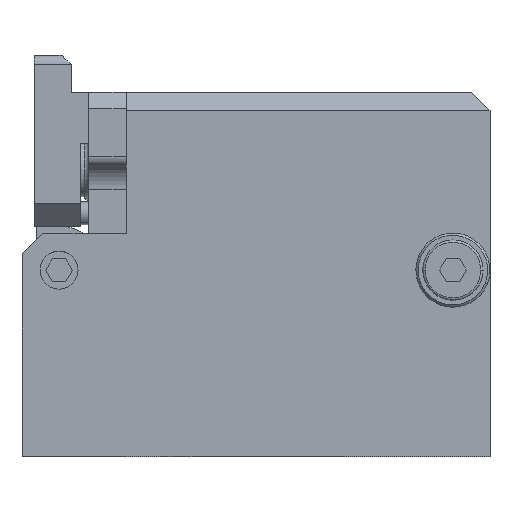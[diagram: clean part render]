
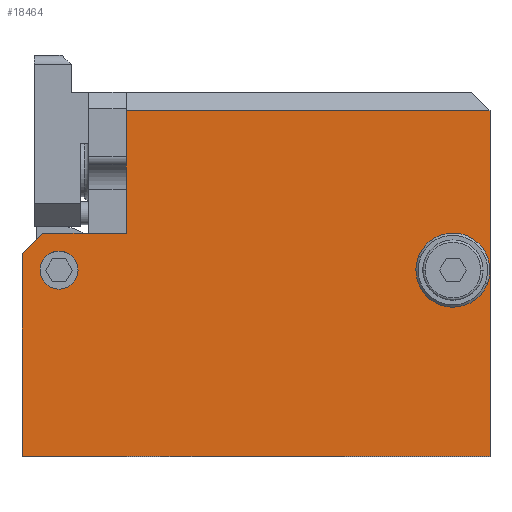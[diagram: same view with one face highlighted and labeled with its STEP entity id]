
A CAD part, top view. The second image highlights one B-rep face of the part: STEP entity #18464.
In plain terms, the highlighted planar face has unit normal (0, 0, 1).
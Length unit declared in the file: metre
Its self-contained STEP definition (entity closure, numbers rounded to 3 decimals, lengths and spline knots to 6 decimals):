
#98 = CIRCLE ( 'NONE', #13836, 0.0041 ) ;
#181 = VERTEX_POINT ( 'NONE', #21082 ) ;
#201 = ORIENTED_EDGE ( 'NONE', *, *, #5767, .T. ) ;
#472 = ORIENTED_EDGE ( 'NONE', *, *, #7378, .T. ) ;
#540 = EDGE_CURVE ( 'NONE', #4227, #5841, #15624, .T. ) ;
#588 = CIRCLE ( 'NONE', #14159, 0.0041 ) ;
#2124 = EDGE_LOOP ( 'NONE', ( #17940, #4405 ) ) ;
#2177 = CARTESIAN_POINT ( 'NONE',  ( -0.0026, -0.04015, 0.022 ) ) ;
#2906 = CARTESIAN_POINT ( 'NONE',  ( -0.0026, 0.0035, 0.022 ) ) ;
#3032 = VERTEX_POINT ( 'NONE', #6979 ) ;
#3379 = CARTESIAN_POINT ( 'NONE',  ( 0.0904, 0., 0.022 ) ) ;
#3390 = CARTESIAN_POINT ( 'NONE',  ( 0.0984, 0.03435, 0.022 ) ) ;
#3585 = LINE ( 'NONE', #20183, #21562 ) ;
#3662 = ORIENTED_EDGE ( 'NONE', *, *, #12776, .F. ) ;
#4227 = VERTEX_POINT ( 'NONE', #14653 ) ;
#4405 = ORIENTED_EDGE ( 'NONE', *, *, #5900, .F. ) ;
#4748 = FACE_BOUND ( 'NONE', #6740, .T. ) ;
#4845 = EDGE_CURVE ( 'NONE', #19908, #5401, #16482, .T. ) ;
#4880 = CARTESIAN_POINT ( 'NONE',  ( -0.0026, -0.04015, 0.022 ) ) ;
#5157 = EDGE_CURVE ( 'NONE', #22160, #181, #20256, .T. ) ;
#5309 = EDGE_LOOP ( 'NONE', ( #16817, #6311, #11939, #472, #13654, #201, #22427 ) ) ;
#5401 = VERTEX_POINT ( 'NONE', #18013 ) ;
#5575 = CARTESIAN_POINT ( 'NONE',  ( -0.0026, -0.04015, 0.022 ) ) ;
#5767 = EDGE_CURVE ( 'NONE', #3032, #22160, #20238, .T. ) ;
#5841 = VERTEX_POINT ( 'NONE', #12732 ) ;
#5900 = EDGE_CURVE ( 'NONE', #8719, #21366, #98, .T. ) ;
#6311 = ORIENTED_EDGE ( 'NONE', *, *, #4845, .T. ) ;
#6546 = PLANE ( 'NONE',  #14503 ) ;
#6621 = DIRECTION ( 'NONE',  ( 0., 0., -1. ) ) ;
#6705 = DIRECTION ( 'NONE',  ( -1., 0., 0. ) ) ;
#6740 = EDGE_LOOP ( 'NONE', ( #3662, #19798 ) ) ;
#6979 = CARTESIAN_POINT ( 'NONE',  ( -0.0026, 0.0035, 0.022 ) ) ;
#7244 = VERTEX_POINT ( 'NONE', #10456 ) ;
#7349 = AXIS2_PLACEMENT_3D ( 'NONE', #3379, #10204, #17149 ) ;
#7359 = CARTESIAN_POINT ( 'NONE',  ( 0.0904, 0., 0.022 ) ) ;
#7378 = EDGE_CURVE ( 'NONE', #7244, #14398, #14497, .T. ) ;
#7382 = DIRECTION ( 'NONE',  ( 0., -1., 0. ) ) ;
#7597 = AXIS2_PLACEMENT_3D ( 'NONE', #7359, #19566, #9115 ) ;
#7621 = CARTESIAN_POINT ( 'NONE',  ( 0.0054, 0., 0.022 ) ) ;
#7726 = CARTESIAN_POINT ( 'NONE',  ( 0.0054, 0., 0.022 ) ) ;
#7746 = LINE ( 'NONE', #9932, #21674 ) ;
#7950 = CARTESIAN_POINT ( 'NONE',  ( 0.0019, 0.008, 0.022 ) ) ;
#8719 = VERTEX_POINT ( 'NONE', #22363 ) ;
#9115 = DIRECTION ( 'NONE',  ( 1., 0., 0. ) ) ;
#9352 = FACE_OUTER_BOUND ( 'NONE', #5309, .T. ) ;
#9386 = CARTESIAN_POINT ( 'NONE',  ( 0.0019, 0.008, 0.022 ) ) ;
#9391 = DIRECTION ( 'NONE',  ( 1., 0., 0. ) ) ;
#9490 = DIRECTION ( 'NONE',  ( 1., 0., 0. ) ) ;
#9932 = CARTESIAN_POINT ( 'NONE',  ( 0.0199, 0.008, 0.022 ) ) ;
#10204 = DIRECTION ( 'NONE',  ( 0., 0., 1. ) ) ;
#10456 = CARTESIAN_POINT ( 'NONE',  ( 0.0199, 0.008, 0.022 ) ) ;
#10971 = VECTOR ( 'NONE', #17813, 1. ) ;
#11544 = DIRECTION ( 'NONE',  ( 0., 1., 0. ) ) ;
#11939 = ORIENTED_EDGE ( 'NONE', *, *, #17554, .T. ) ;
#12357 = VECTOR ( 'NONE', #13301, 1. ) ;
#12732 = CARTESIAN_POINT ( 'NONE',  ( 0.0863, 0., 0.022 ) ) ;
#12776 = EDGE_CURVE ( 'NONE', #5841, #4227, #17797, .T. ) ;
#13301 = DIRECTION ( 'NONE',  ( -0.707, -0.707, 0. ) ) ;
#13365 = VECTOR ( 'NONE', #18082, 1. ) ;
#13431 = DIRECTION ( 'NONE',  ( 0., -1., 0. ) ) ;
#13654 = ORIENTED_EDGE ( 'NONE', *, *, #22288, .T. ) ;
#13678 = CARTESIAN_POINT ( 'NONE',  ( 0.0013, 0., 0.022 ) ) ;
#13699 = CARTESIAN_POINT ( 'NONE',  ( -0.0026, 0.03435, 0.022 ) ) ;
#13836 = AXIS2_PLACEMENT_3D ( 'NONE', #7621, #19842, #9391 ) ;
#14159 = AXIS2_PLACEMENT_3D ( 'NONE', #7726, #19955, #9490 ) ;
#14398 = VERTEX_POINT ( 'NONE', #7950 ) ;
#14414 = EDGE_CURVE ( 'NONE', #181, #19908, #3585, .T. ) ;
#14497 = LINE ( 'NONE', #9386, #13365 ) ;
#14503 = AXIS2_PLACEMENT_3D ( 'NONE', #4880, #6621, #18815 ) ;
#14653 = CARTESIAN_POINT ( 'NONE',  ( 0.0945, 0., 0.022 ) ) ;
#14731 = CARTESIAN_POINT ( 'NONE',  ( -0.0026, -0.04015, 0.022 ) ) ;
#15003 = EDGE_CURVE ( 'NONE', #21366, #8719, #588, .T. ) ;
#15384 = VECTOR ( 'NONE', #6705, 1. ) ;
#15624 = CIRCLE ( 'NONE', #7349, 0.0041 ) ;
#16482 = LINE ( 'NONE', #13699, #15384 ) ;
#16485 = LINE ( 'NONE', #2906, #12357 ) ;
#16817 = ORIENTED_EDGE ( 'NONE', *, *, #14414, .T. ) ;
#17149 = DIRECTION ( 'NONE',  ( 1., 0., 0. ) ) ;
#17554 = EDGE_CURVE ( 'NONE', #5401, #7244, #7746, .T. ) ;
#17797 = CIRCLE ( 'NONE', #7597, 0.0041 ) ;
#17813 = DIRECTION ( 'NONE',  ( 1., 0., 0. ) ) ;
#17940 = ORIENTED_EDGE ( 'NONE', *, *, #15003, .F. ) ;
#18013 = CARTESIAN_POINT ( 'NONE',  ( 0.0199, 0.03435, 0.022 ) ) ;
#18082 = DIRECTION ( 'NONE',  ( -1., 0., 0. ) ) ;
#18464 = ADVANCED_FACE ( 'NONE', ( #9352, #18628, #4748 ), #6546, .F. ) ;
#18628 = FACE_BOUND ( 'NONE', #2124, .T. ) ;
#18815 = DIRECTION ( 'NONE',  ( -1., 0., 0. ) ) ;
#19566 = DIRECTION ( 'NONE',  ( 0., 0., 1. ) ) ;
#19686 = VECTOR ( 'NONE', #7382, 1. ) ;
#19798 = ORIENTED_EDGE ( 'NONE', *, *, #540, .F. ) ;
#19842 = DIRECTION ( 'NONE',  ( 0., 0., 1. ) ) ;
#19908 = VERTEX_POINT ( 'NONE', #3390 ) ;
#19955 = DIRECTION ( 'NONE',  ( 0., 0., 1. ) ) ;
#20183 = CARTESIAN_POINT ( 'NONE',  ( 0.0984, -0.04015, 0.022 ) ) ;
#20238 = LINE ( 'NONE', #2177, #19686 ) ;
#20256 = LINE ( 'NONE', #5575, #10971 ) ;
#21082 = CARTESIAN_POINT ( 'NONE',  ( 0.0984, -0.04015, 0.022 ) ) ;
#21366 = VERTEX_POINT ( 'NONE', #13678 ) ;
#21562 = VECTOR ( 'NONE', #11544, 1. ) ;
#21674 = VECTOR ( 'NONE', #13431, 1. ) ;
#22160 = VERTEX_POINT ( 'NONE', #14731 ) ;
#22288 = EDGE_CURVE ( 'NONE', #14398, #3032, #16485, .T. ) ;
#22363 = CARTESIAN_POINT ( 'NONE',  ( 0.0095, 0., 0.022 ) ) ;
#22427 = ORIENTED_EDGE ( 'NONE', *, *, #5157, .T. ) ;
